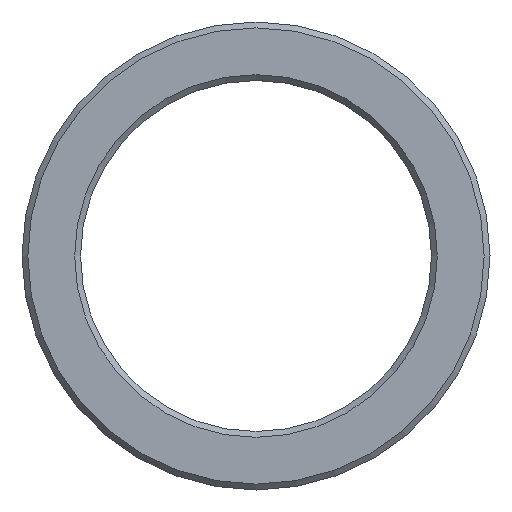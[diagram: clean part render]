
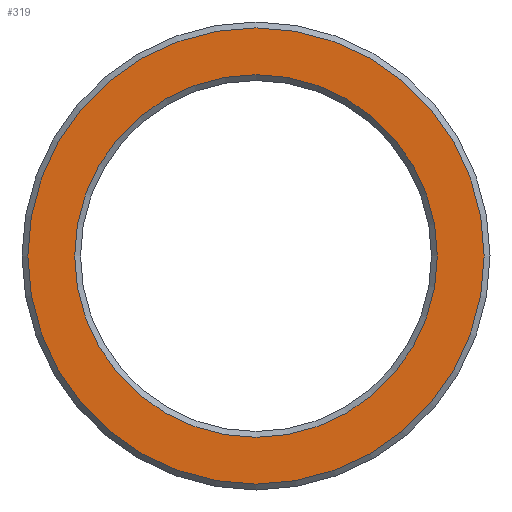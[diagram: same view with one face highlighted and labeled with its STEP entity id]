
A CAD part, left-side view. The second image highlights one B-rep face of the part: STEP entity #319.
In plain terms, the highlighted planar face has unit normal (-1, 0, 0).
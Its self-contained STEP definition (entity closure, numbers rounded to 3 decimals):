
#277=CARTESIAN_POINT('',(-50.0,19.5,0.));
#278=VERTEX_POINT('',#277);
#279=CARTESIAN_POINT('',(-50.0,0.0,0.0));
#280=DIRECTION('',(1.0,0.0,0.0));
#281=DIRECTION('',(0.0,-1.0,0.0));
#282=AXIS2_PLACEMENT_3D('',#279,#280,#281);
#283=CIRCLE('',#282,19.5);
#284=EDGE_CURVE('',#278,#278,#283,.T.);
#300=CARTESIAN_POINT('',(-50.0,17.5,0.0));
#301=DIRECTION('',(-1.0,0.0,0.0));
#302=DIRECTION('',(0.0,0.0,1.0));
#303=AXIS2_PLACEMENT_3D('',#300,#301,#302);
#304=PLANE('',#303);
#305=ORIENTED_EDGE('',*,*,#284,.F.);
#306=EDGE_LOOP('',(#305));
#307=FACE_OUTER_BOUND('',#306,.T.);
#308=CARTESIAN_POINT('',(-50.0,15.5,0.));
#309=VERTEX_POINT('',#308);
#310=CARTESIAN_POINT('',(-50.0,0.0,0.0));
#311=DIRECTION('',(-1.0,0.0,0.0));
#312=DIRECTION('',(0.0,-1.0,0.0));
#313=AXIS2_PLACEMENT_3D('',#310,#311,#312);
#314=CIRCLE('',#313,15.5);
#315=EDGE_CURVE('',#309,#309,#314,.T.);
#316=ORIENTED_EDGE('',*,*,#315,.F.);
#317=EDGE_LOOP('',(#316));
#318=FACE_BOUND('',#317,.T.);
#319=ADVANCED_FACE('',(#307,#318),#304,.T.);
